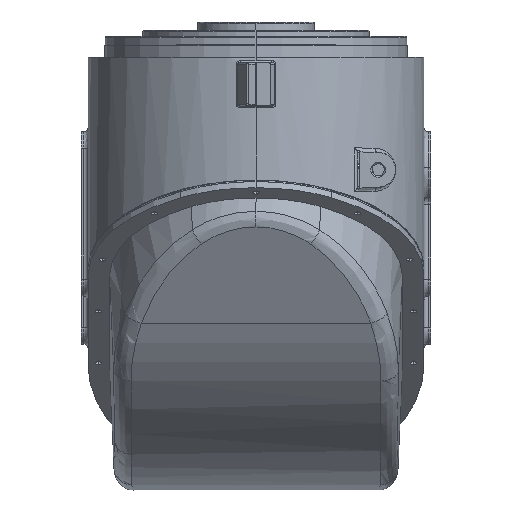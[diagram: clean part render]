
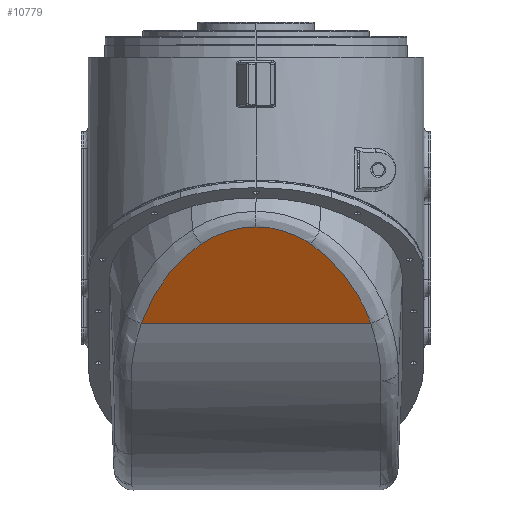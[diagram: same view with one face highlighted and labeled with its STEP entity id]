
A CAD part, top view. The second image highlights one B-rep face of the part: STEP entity #10779.
In plain terms, the highlighted planar face has unit normal (0, -0.454, 0.891).
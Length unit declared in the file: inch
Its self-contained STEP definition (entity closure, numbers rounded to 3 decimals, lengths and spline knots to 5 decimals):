
#504 = LINE ( 'NONE', #25235, #16596 ) ;
#897 = FACE_OUTER_BOUND ( 'NONE', #9980, .T. ) ;
#1502 = CARTESIAN_POINT ( 'NONE',  ( -7.57874, -0.26325, 7.33337 ) ) ;
#2429 = ORIENTED_EDGE ( 'NONE', *, *, #5729, .F. ) ;
#3218 = CARTESIAN_POINT ( 'NONE',  ( -0.21705, -0.61305, 7.15514 ) ) ;
#3542 = CARTESIAN_POINT ( 'NONE',  ( -3.06816, -1.82696, 6.53662 ) ) ;
#3640 = CARTESIAN_POINT ( 'NONE',  ( -2.28722, -1.25873, 6.82614 ) ) ;
#4408 = B_SPLINE_CURVE_WITH_KNOTS ( 'NONE', 3,
 ( #12190, #5731, #37057, #24834, #21692, #39933, #34365, #5921, #18586, #31273 ),
 .UNSPECIFIED., .F., .F.,
 ( 4, 2, 2, 2, 4 ),
 ( 0., 0.25, 0.5, 0.75, 1. ),
 .UNSPECIFIED. ) ;
#4797 = B_SPLINE_CURVE_WITH_KNOTS ( 'NONE', 3,
 ( #19412, #3640, #32083, #12583, #38274, #9670, #25240, #9475, #3218, #28555 ),
 .UNSPECIFIED., .F., .F.,
 ( 4, 2, 2, 2, 4 ),
 ( 0., 0.25, 0.5, 0.75, 1. ),
 .UNSPECIFIED. ) ;
#5729 = EDGE_CURVE ( 'NONE', #29965, #29088, #34670, .T. ) ;
#5731 = CARTESIAN_POINT ( 'NONE',  ( 2.77747, -1.59193, 6.65637 ) ) ;
#5921 = CARTESIAN_POINT ( 'NONE',  ( 4.89353, -4.23542, 5.30944 ) ) ;
#6029 = CARTESIAN_POINT ( 'NONE',  ( -3.61105, -2.34481, 6.27276 ) ) ;
#6735 = CARTESIAN_POINT ( 'NONE',  ( 2.0951, -1.14762, 6.88276 ) ) ;
#7566 = CARTESIAN_POINT ( 'NONE',  ( 0.43409, -0.62955, 7.14673 ) ) ;
#9475 = CARTESIAN_POINT ( 'NONE',  ( -0.43409, -0.62955, 7.14673 ) ) ;
#9578 = CARTESIAN_POINT ( 'NONE',  ( -2.47131, -1.38384, 6.7624 ) ) ;
#9670 = CARTESIAN_POINT ( 'NONE',  ( -1.07678, -0.74447, 7.08817 ) ) ;
#9980 = EDGE_LOOP ( 'NONE', ( #16105, #27900, #20755, #2429, #26183 ) ) ;
#10243 = CARTESIAN_POINT ( 'NONE',  ( -2.47131, -1.38384, 6.7624 ) ) ;
#10779 = ADVANCED_FACE ( 'NONE', ( #897 ), #39456, .F. ) ;
#11625 = CARTESIAN_POINT ( 'NONE',  ( 0., -0.61305, 7.15514 ) ) ;
#12190 = CARTESIAN_POINT ( 'NONE',  ( 2.47131, -1.38384, 6.7624 ) ) ;
#12489 = CARTESIAN_POINT ( 'NONE',  ( -4.5297, -3.55691, 5.65516 ) ) ;
#12583 = CARTESIAN_POINT ( 'NONE',  ( -1.69852, -0.95557, 6.98061 ) ) ;
#13101 = CARTESIAN_POINT ( 'NONE',  ( -5.05021, -4.59068, 5.12843 ) ) ;
#13186 = CARTESIAN_POINT ( 'NONE',  ( 1.49406, -0.87462, 7.02186 ) ) ;
#13400 = CARTESIAN_POINT ( 'NONE',  ( 1.07678, -0.74447, 7.08817 ) ) ;
#16105 = ORIENTED_EDGE ( 'NONE', *, *, #24904, .F. ) ;
#16596 = VECTOR ( 'NONE', #22095, 39.37008 ) ;
#16892 = DIRECTION ( 'NONE',  ( 0., 0.891, 0.454 ) ) ;
#18586 = CARTESIAN_POINT ( 'NONE',  ( 5.05021, -4.59068, 5.12843 ) ) ;
#19412 = CARTESIAN_POINT ( 'NONE',  ( -2.47131, -1.38384, 6.7624 ) ) ;
#20755 = ORIENTED_EDGE ( 'NONE', *, *, #40355, .F. ) ;
#21692 = CARTESIAN_POINT ( 'NONE',  ( 3.86324, -2.62762, 6.12866 ) ) ;
#21796 = CARTESIAN_POINT ( 'NONE',  ( -4.32257, -3.23368, 5.81986 ) ) ;
#22095 = DIRECTION ( 'NONE',  ( -1., 0., 0. ) ) ;
#22167 = VERTEX_POINT ( 'NONE', #11625 ) ;
#22507 = CARTESIAN_POINT ( 'NONE',  ( 0.86396, -0.69527, 7.11324 ) ) ;
#22717 = CARTESIAN_POINT ( 'NONE',  ( 0., -0.61305, 7.15514 ) ) ;
#23125 = CARTESIAN_POINT ( 'NONE',  ( 2.47131, -1.38384, 6.7624 ) ) ;
#24834 = CARTESIAN_POINT ( 'NONE',  ( 3.61105, -2.34481, 6.27276 ) ) ;
#24904 = EDGE_CURVE ( 'NONE', #27002, #38039, #4408, .T. ) ;
#25033 = EDGE_CURVE ( 'NONE', #38039, #29965, #504, .T. ) ;
#25235 = CARTESIAN_POINT ( 'NONE',  ( -7.57874, -4.95734, 4.94161 ) ) ;
#25240 = CARTESIAN_POINT ( 'NONE',  ( -0.86396, -0.69527, 7.11324 ) ) ;
#25546 = CARTESIAN_POINT ( 'NONE',  ( -5.17964, -4.95734, 4.94161 ) ) ;
#26054 = CARTESIAN_POINT ( 'NONE',  ( 2.28722, -1.25873, 6.82614 ) ) ;
#26183 = ORIENTED_EDGE ( 'NONE', *, *, #25033, .F. ) ;
#26235 = DIRECTION ( 'NONE',  ( 0., 0.454, -0.891 ) ) ;
#27002 = VERTEX_POINT ( 'NONE', #34961 ) ;
#27900 = ORIENTED_EDGE ( 'NONE', *, *, #28834, .F. ) ;
#28555 = CARTESIAN_POINT ( 'NONE',  ( 0., -0.61305, 7.15514 ) ) ;
#28834 = EDGE_CURVE ( 'NONE', #22167, #27002, #28866, .T. ) ;
#28866 = B_SPLINE_CURVE_WITH_KNOTS ( 'NONE', 3,
 ( #22717, #29179, #7566, #22507, #13400, #13186, #32287, #6735, #26054, #23125 ),
 .UNSPECIFIED., .F., .F.,
 ( 4, 2, 2, 2, 4 ),
 ( 0., 0.25, 0.5, 0.75, 1. ),
 .UNSPECIFIED. ) ;
#28877 = CARTESIAN_POINT ( 'NONE',  ( -3.86324, -2.62762, 6.12866 ) ) ;
#29088 = VERTEX_POINT ( 'NONE', #10243 ) ;
#29179 = CARTESIAN_POINT ( 'NONE',  ( 0.21705, -0.61305, 7.15514 ) ) ;
#29965 = VERTEX_POINT ( 'NONE', #30361 ) ;
#30361 = CARTESIAN_POINT ( 'NONE',  ( -5.17964, -4.95734, 4.94161 ) ) ;
#31273 = CARTESIAN_POINT ( 'NONE',  ( 5.17964, -4.95734, 4.94161 ) ) ;
#32005 = CARTESIAN_POINT ( 'NONE',  ( 5.17964, -4.95734, 4.94161 ) ) ;
#32083 = CARTESIAN_POINT ( 'NONE',  ( -2.0951, -1.14762, 6.88276 ) ) ;
#32287 = CARTESIAN_POINT ( 'NONE',  ( 1.69852, -0.95557, 6.98061 ) ) ;
#34365 = CARTESIAN_POINT ( 'NONE',  ( 4.5297, -3.55691, 5.65516 ) ) ;
#34670 = B_SPLINE_CURVE_WITH_KNOTS ( 'NONE', 3,
 ( #25546, #13101, #37779, #12489, #21796, #28877, #6029, #3542, #40651, #9578 ),
 .UNSPECIFIED., .F., .F.,
 ( 4, 2, 2, 2, 4 ),
 ( 0., 0.25, 0.5, 0.75, 1. ),
 .UNSPECIFIED. ) ;
#34961 = CARTESIAN_POINT ( 'NONE',  ( 2.47131, -1.38384, 6.7624 ) ) ;
#37057 = CARTESIAN_POINT ( 'NONE',  ( 3.06816, -1.82696, 6.53662 ) ) ;
#37779 = CARTESIAN_POINT ( 'NONE',  ( -4.89353, -4.23542, 5.30944 ) ) ;
#38039 = VERTEX_POINT ( 'NONE', #32005 ) ;
#38274 = CARTESIAN_POINT ( 'NONE',  ( -1.49406, -0.87462, 7.02186 ) ) ;
#39456 = PLANE ( 'NONE',  #40273 ) ;
#39933 = CARTESIAN_POINT ( 'NONE',  ( 4.32257, -3.23368, 5.81986 ) ) ;
#40273 = AXIS2_PLACEMENT_3D ( 'NONE', #1502, #26235, #16892 ) ;
#40355 = EDGE_CURVE ( 'NONE', #29088, #22167, #4797, .T. ) ;
#40651 = CARTESIAN_POINT ( 'NONE',  ( -2.77747, -1.59193, 6.65637 ) ) ;
